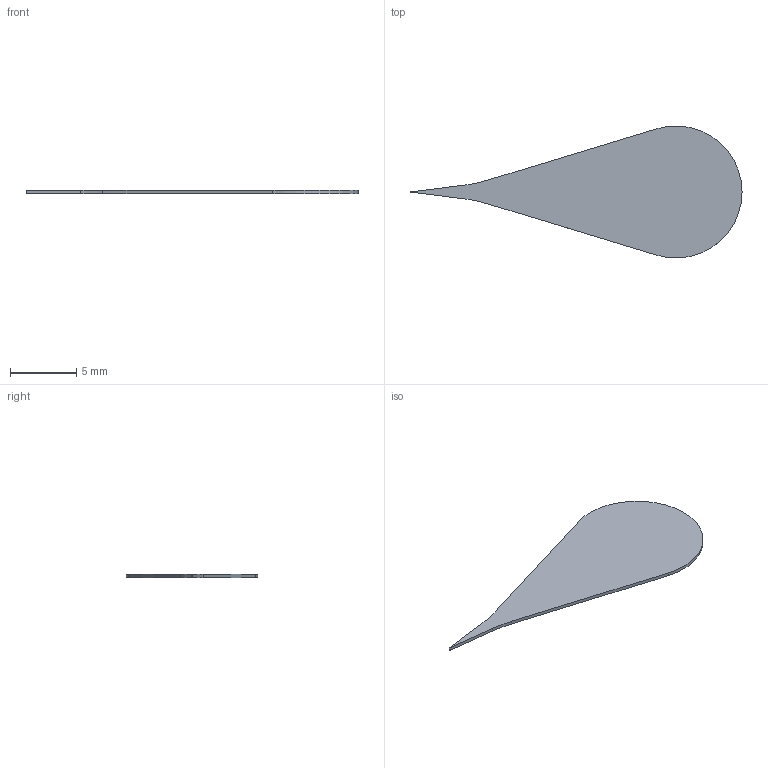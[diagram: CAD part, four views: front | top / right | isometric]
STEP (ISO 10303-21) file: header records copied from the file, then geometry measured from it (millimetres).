
FILE_DESCRIPTION (( 'STEP AP214' ), '1' );
FILE_NAME ('pole.STEP', '2026-07-10T15:13:05', ( '' ), ( '' ), 'SwSTEP 2.0', 'SolidWorks 2024', '' );
FILE_SCHEMA (( 'AUTOMOTIVE_DESIGN' ));
Length unit declared in the file: millimetre
Products named in the file (1): pole
Bounding box: 25.15 x 9.99 x 0.25 mm (x, y, z)
Volume: 32.7 mm3; surface area: 276.2 mm2
Topology: 1 solids, 1 shells, 11 faces, 27 edges, 18 vertices
Faces by surface type: plane 6, cylinder 5
Entity records: 354 total; most frequent: DIRECTION 61, CARTESIAN_POINT 57, ORIENTED_EDGE 54, EDGE_CURVE 27, AXIS2_PLACEMENT_3D 22, VERTEX_POINT 18, LINE 17, VECTOR 17
